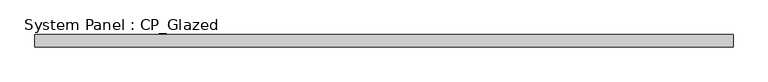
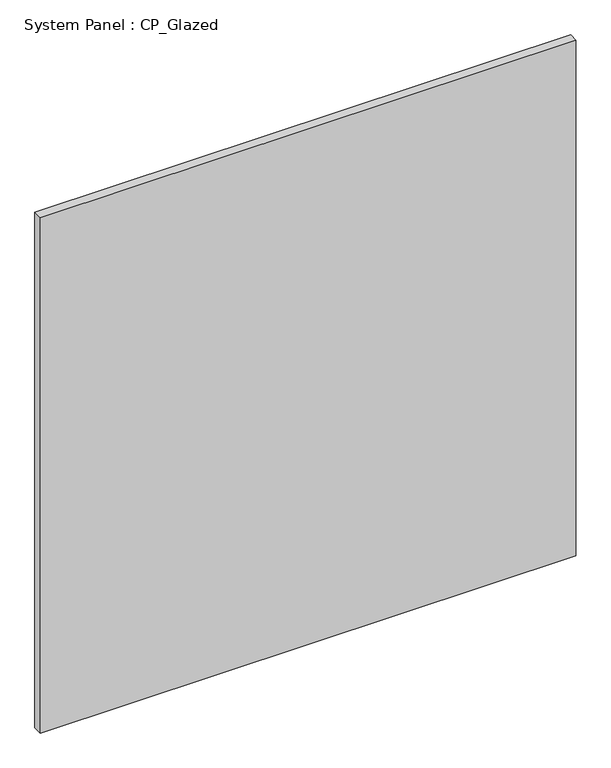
"""IFC4 building model written with IfcOpenShell, lengths in millimetres: plate geometry, System Panel : CP_Glazed."""

from ifc_helpers import new_model, si_unit, origin, origin_with_axes, place, context, project, spatial, polyline, outline, extrude, source, transform, mapped, element, save


def system_panel_cp_glazed_8ed5f4c2(model_context):
    return source(origin(), model_context, "Body", "SweptSolid", [
        extrude(outline(polyline([(727.075, 19.05), (-727.075, 19.05), (-727.075, 44.45), (727.075, 44.45), (727.075, 19.05)])), origin_with_axes(), (0.0, 0.0, 1.0), 1479.55),
    ])


if __name__ == "__main__":
    model = new_model("IFC4")
    model_context = context("Model", 3, world=origin())
    ifc_project = project(units=[si_unit("LENGTHUNIT", "METRE", prefix="MILLI")], contexts=[model_context])
    site = spatial("IfcSite", under=ifc_project)
    building = spatial("IfcBuilding", under=site)
    placement = place(None, origin())
    system_panel_cp_glazed_shape = system_panel_cp_glazed_8ed5f4c2(model_context)
    element("IfcPlate", 1, ObjectType="System Panel : CP_Glazed", at=placement, inside=building, context=model_context, shape_type="MappedRepresentation", body=[
        mapped(system_panel_cp_glazed_shape, transform((0.0, 0.0, 0.0), x_axis=(1.0, 0.0, 0.0), y_axis=(0.0, 1.0, 0.0), z_axis=(0.0, 0.0, 1.0))),
    ])
    save(model, "model.ifc")
